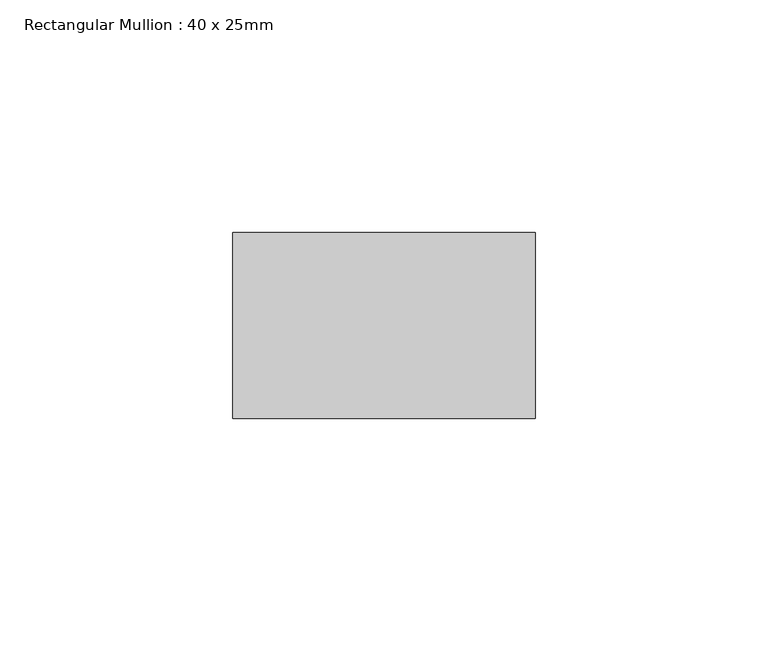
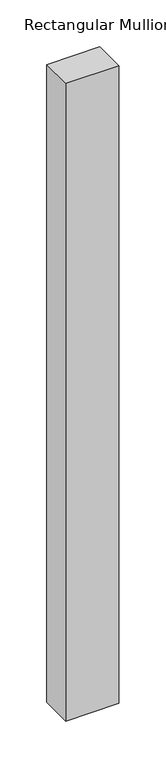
"""IFC4 building model written with IfcOpenShell, lengths in millimetres: member geometry, Rectangular Mullion : 40 x 25mm."""

from ifc_helpers import new_model, si_unit, frame, origin, place, context, project, spatial, polyline, outline, extrude, source, transform, mapped, element, save


def rectangular_mullion_40_x_25mm_2b0a27b6(model_context):
    return source(origin(), model_context, "Body", "SweptSolid", [
        extrude(outline(polyline([(0.0, -20.0), (0.0, -60.0), (-65.0, -60.0), (-65.0, -20.0), (0.0, -20.0)])), frame((0.0, 0.0, -828.5588578), z_axis=(0.0, 0.0, 1.0), x_axis=(1.0, 0.0, 0.0)), (0.0, 0.0, 1.0), 828.5588578),
    ])


if __name__ == "__main__":
    model = new_model("IFC4")
    model_context = context("Model", 3, world=origin())
    ifc_project = project(units=[si_unit("LENGTHUNIT", "METRE", prefix="MILLI")], contexts=[model_context])
    site = spatial("IfcSite", under=ifc_project)
    building = spatial("IfcBuilding", under=site)
    placement = place(None, origin())
    rectangular_mullion_40_x_25mm_shape = rectangular_mullion_40_x_25mm_2b0a27b6(model_context)
    element("IfcMember", 1, ObjectType="Rectangular Mullion : 40 x 25mm", at=placement, inside=building, context=model_context, shape_type="MappedRepresentation", body=[
        mapped(rectangular_mullion_40_x_25mm_shape, transform((0.0, 0.0, 0.0), x_axis=(1.0, 0.0, 0.0), y_axis=(0.0, 1.0, 0.0), z_axis=(0.0, 0.0, 1.0))),
    ])
    save(model, "model.ifc")
